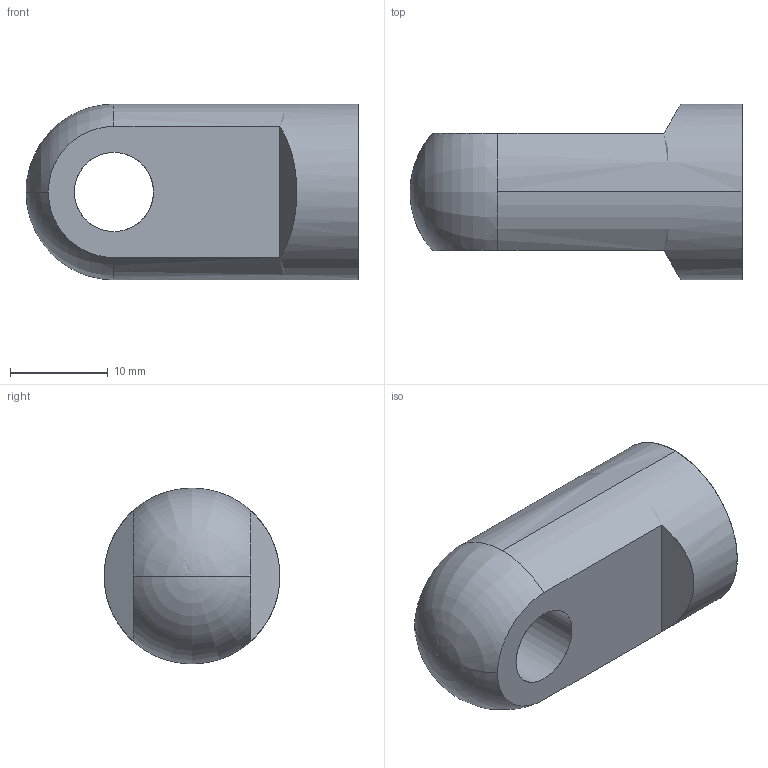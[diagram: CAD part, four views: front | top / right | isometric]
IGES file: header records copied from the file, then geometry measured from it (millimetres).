
Start section: SolidWorks IGES file using analytic representation for surfaces
Global section: file name: Z:\7-3D図面\01.図面\01.L\外形図\Ｇ／Ｓ\20170710(最新)\カタログ用\IGES\A10.IGS; native system: SolidWorks 2016; preprocessor: SolidWorks 2016; author: flgijutsu; date: 170713.114501; units: millimetre
Bounding box: 34 x 18 x 18 mm (x, y, z)
Surface area: 2723.7 mm2 (no closed solid volume)
Topology: 0 solids, 0 shells, 15 faces, 284 edges, 283 vertices
Faces by surface type: revolution 10, bspline 5
